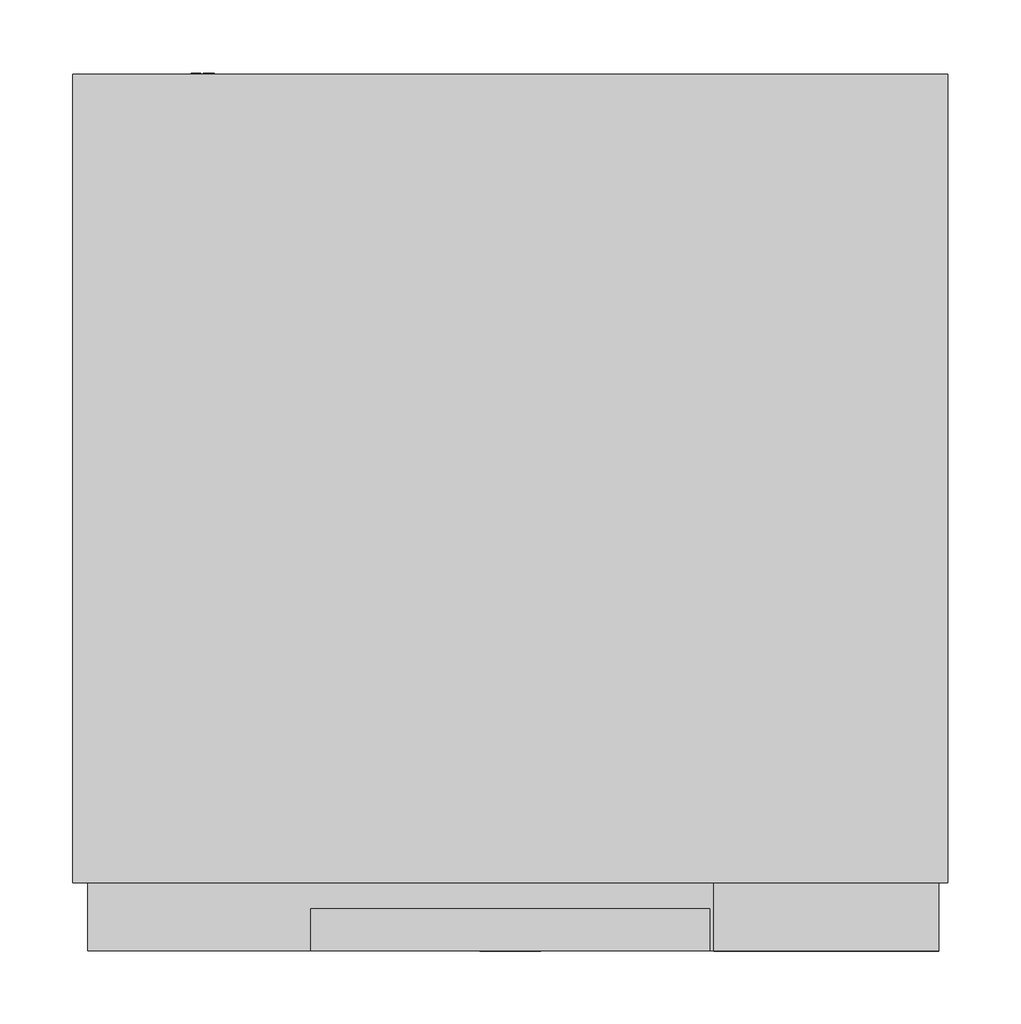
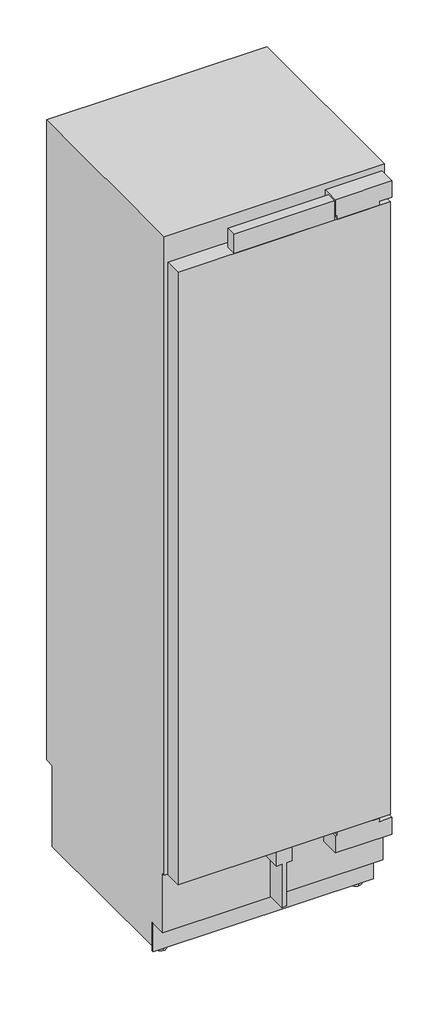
# Not in any storey: 1 proxy.
"""IFC4 building model written with IfcOpenShell, lengths in millimetres."""

import ifcopenshell
import ifcopenshell.guid

model = None  # the IFC model being written
_history = None  # IfcOwnerHistory: only IFC2X3 demands one
_inside = {}  # id of a spatial element -> (the spatial element, [elements in it])
_under = {}  # id of a project, library or spatial element -> (it, [spatial elements below it])
_declared = {}  # id of a project -> (the project, [libraries it declares])
_typed = {}  # id of a type object -> (the type object, [elements of that type])
_made_of = {}  # id of a material, layer set ... -> (it, [elements and type objects made of it])


def new_model(schema):
    """Start an empty IFC model of exactly this schema.

    Asked for "IFC4X3", IfcOpenShell would pick the latest addendum, in which some entities
    have other attributes; the version numbers below select the first issue.
    IFC2X3 requires an IfcOwnerHistory on every rooted entity: one is made here for all.
    """
    global model, _history
    if schema == "IFC4X3":
        model = ifcopenshell.file(schema_version=(4, 3, 0, 0))
    else:
        model = ifcopenshell.file(schema=schema)
    _inside.clear()
    _under.clear()
    _declared.clear()
    _typed.clear()
    _made_of.clear()
    _history = None
    if model.schema == "IFC2X3":
        org = make("IfcOrganization", Name="unknown")
        user = make(
            "IfcPersonAndOrganization",
            ThePerson=make("IfcPerson", FamilyName="unknown"),
            TheOrganization=org,
        )
        app = make(
            "IfcApplication",
            ApplicationDeveloper=org,
            Version="unknown",
            ApplicationFullName="unknown",
            ApplicationIdentifier="unknown",
        )
        _history = make(
            "IfcOwnerHistory",
            OwningUser=user,
            OwningApplication=app,
            ChangeAction="ADDED",
            CreationDate=0,
        )
    return model


def make(cls, **values):
    """One entity of the class cls with the attributes given. An attribute that is None is left unset."""
    return model.create_entity(
        cls, **{name: value for name, value in values.items() if value is not None}
    )


def rooted(cls, **values):
    """An entity with a GlobalId (a new one), such as an element, a storey or a relation."""
    return make(cls, GlobalId=ifcopenshell.guid.new(), OwnerHistory=_history, **values)


def si_unit(unit_type, name, prefix=None):
    """IfcSIUnit, for example si_unit("LENGTHUNIT", "METRE", prefix="MILLI")."""
    return make("IfcSIUnit", UnitType=unit_type, Prefix=prefix, Name=name)


def assignment(units):
    """IfcUnitAssignment: the units of a project."""
    return None if units is None else make("IfcUnitAssignment", Units=units)


def point(xyz):
    """IfcCartesianPoint."""
    return None if xyz is None else make("IfcCartesianPoint", Coordinates=xyz)


def direction(xyz):
    """IfcDirection."""
    return None if xyz is None else make("IfcDirection", DirectionRatios=xyz)


def frame(location, z_axis=None, x_axis=None):
    """IfcAxis2Placement3D, a coordinate frame: its origin and axes. An axis left out is left unset."""
    return make(
        "IfcAxis2Placement3D",
        Location=point(location),
        Axis=direction(z_axis),
        RefDirection=direction(x_axis),
    )


def frame_2d(location, x_axis=None):
    """IfcAxis2Placement2D, a coordinate frame in the plane: its origin and x axis."""
    return make(
        "IfcAxis2Placement2D", Location=point(location), RefDirection=direction(x_axis)
    )


def origin():
    """The frame at (0, 0, 0) with its axes left unset."""
    return frame((0.0, 0.0, 0.0))


def place(relative_to, where):
    """IfcLocalPlacement: puts the frame where relative to a parent placement (None: the world)."""
    return make(
        "IfcLocalPlacement", PlacementRelTo=relative_to, RelativePlacement=where
    )


def context(
    kind, dimensions, precision=None, world=None, true_north=None, identifier=None
):
    """IfcGeometricRepresentationContext, for example the 3D "Model" context."""
    return make(
        "IfcGeometricRepresentationContext",
        ContextIdentifier=identifier,
        ContextType=kind,
        CoordinateSpaceDimension=dimensions,
        Precision=precision,
        WorldCoordinateSystem=world,
        TrueNorth=true_north,
    )


def project(units=None, contexts=None):
    """IfcProject with its units and contexts."""
    return rooted(
        "IfcProject",
        Name="project",
        RepresentationContexts=contexts,
        UnitsInContext=assignment(units),
    )


def spatial(cls, under=None, at=None, **own):
    """A site, building, storey or space (cls), placed at a placement, below another one or the project."""
    s = rooted(cls, ObjectPlacement=at, **own)
    if under is not None:
        _under.setdefault(under.id(), (under, []))[1].append(s)
    return s


def polyline(points):
    """IfcPolyline through the points."""
    return make("IfcPolyline", Points=[point(p) for p in points])


def circle_curve(where, radius):
    """IfcCircle in the frame where."""
    return make("IfcCircle", Position=where, Radius=radius)


def trimmed(basis, trim1, trim2, sense, master):
    """IfcTrimmedCurve: the piece of a basis curve between two trims."""
    return make(
        "IfcTrimmedCurve",
        BasisCurve=basis,
        Trim1=trim1,
        Trim2=trim2,
        SenseAgreement=sense,
        MasterRepresentation=master,
    )


def segment(curve, same_sense, transition):
    """IfcCompositeCurveSegment."""
    return make(
        "IfcCompositeCurveSegment",
        Transition=transition,
        SameSense=same_sense,
        ParentCurve=curve,
    )


def composite_curve(segments, self_intersect=None):
    """IfcCompositeCurve: segments joined end to end."""
    return make("IfcCompositeCurve", Segments=segments, SelfIntersect=self_intersect)


def outline(outer, holes=None, kind="AREA"):
    """IfcArbitraryClosedProfileDef: a profile drawn as a closed curve; with holes, ...WithVoids."""
    if holes is None:
        return make("IfcArbitraryClosedProfileDef", ProfileType=kind, OuterCurve=outer)
    return make(
        "IfcArbitraryProfileDefWithVoids",
        ProfileType=kind,
        OuterCurve=outer,
        InnerCurves=holes,
    )


def extrude(swept, where, along, depth):
    """IfcExtrudedAreaSolid: the profile swept, set in the frame where, extruded along a direction by depth."""
    return make(
        "IfcExtrudedAreaSolid",
        SweptArea=swept,
        Position=where,
        ExtrudedDirection=direction(along),
        Depth=depth,
    )


def shape(context_of_items, identifier, shape_type, items):
    """IfcShapeRepresentation: the items that make up one representation, for example the "Body"."""
    return make(
        "IfcShapeRepresentation",
        ContextOfItems=context_of_items,
        RepresentationIdentifier=identifier,
        RepresentationType=shape_type,
        Items=items,
    )


def source(mapping_origin, context_of_items, identifier, shape_type, items):
    """IfcRepresentationMap: a shape defined once, which mapped items show again and again."""
    return make(
        "IfcRepresentationMap",
        MappingOrigin=mapping_origin,
        MappedRepresentation=shape(context_of_items, identifier, shape_type, items),
    )


def transform(
    local_origin,
    x_axis=None,
    y_axis=None,
    z_axis=None,
    scale=None,
    scale2=None,
    scale3=None,
    uniform=True,
):
    """IfcCartesianTransformationOperator3D, or its non-uniform kind. x_axis, y_axis, z_axis: its Axis1, 2, 3."""
    if uniform:
        return make(
            "IfcCartesianTransformationOperator3D",
            Axis1=direction(x_axis),
            Axis2=direction(y_axis),
            LocalOrigin=point(local_origin),
            Scale=scale,
            Axis3=direction(z_axis),
        )
    return make(
        "IfcCartesianTransformationOperator3DnonUniform",
        Axis1=direction(x_axis),
        Axis2=direction(y_axis),
        LocalOrigin=point(local_origin),
        Scale=scale,
        Axis3=direction(z_axis),
        Scale2=scale2,
        Scale3=scale3,
    )


def mapped(mapping_source, mapping_target):
    """IfcMappedItem: shows the shape of a source again, moved by a transform."""
    return make(
        "IfcMappedItem", MappingSource=mapping_source, MappingTarget=mapping_target
    )


def made_of(thing, what):
    """Note that an element or type object is made of a material, layer set ...; save() writes the relation."""
    if what is not None:
        _made_of.setdefault(what.id(), (what, []))[1].append(thing)
    return thing


def element(
    cls,
    number,
    at=None,
    inside=None,
    cuts=None,
    type_object=None,
    material=None,
    context=None,
    identifier="Body",
    shape_type=None,
    held_by="IfcProductDefinitionShape",
    body=None,
    shapes=None,
    **own,
):
    """One element of the class cls, such as IfcWall. Its Tag is "e" and its number.

    at: its placement. inside: the storey or other place that contains it. cuts: it is an
    opening in that element (IfcRelVoidsElement). A single representation is given by context,
    identifier, shape_type and body (its items); several are given by shapes. held_by: the class
    of the entity that holds the representations. save() writes the other relations.
    """
    e = rooted(cls, Tag="e%d" % number, ObjectPlacement=at, **own)
    if body is not None:
        shapes = [shape(context, identifier, shape_type, body)]
    if shapes is not None:
        e.Representation = make(held_by, Representations=shapes)
    if inside is not None:
        _inside.setdefault(inside.id(), (inside, []))[1].append(e)
    if cuts is not None:
        rooted(
            "IfcRelVoidsElement", RelatingBuildingElement=cuts, RelatedOpeningElement=e
        )
    if type_object is not None:
        _typed.setdefault(type_object.id(), (type_object, []))[1].append(e)
    return made_of(e, material)


def aggregate(whole, parts):
    """IfcRelAggregates: a whole, such as a stair, and the parts it consists of."""
    return rooted("IfcRelAggregates", RelatingObject=whole, RelatedObjects=parts)


def save(model, path):
    """Write the relations noted so far, then the file.

    IfcRelAggregates (storeys below a building ...), IfcRelContainedInSpatialStructure (elements
    in a storey), IfcRelDefinesByType, IfcRelAssociatesMaterial and IfcRelDeclares: one each for
    every whole, place, type object, material and project.
    """
    for whole, parts in _under.values():
        aggregate(whole, parts)
    for where, things in _inside.values():
        rooted(
            "IfcRelContainedInSpatialStructure",
            RelatedElements=things,
            RelatingStructure=where,
        )
    for kind, things in _typed.values():
        rooted("IfcRelDefinesByType", RelatedObjects=things, RelatingType=kind)
    for what, things in _made_of.values():
        rooted("IfcRelAssociatesMaterial", RelatedObjects=things, RelatingMaterial=what)
    for by, libraries in _declared.values():
        rooted("IfcRelDeclares", RelatingContext=by, RelatedDefinitions=libraries)
    model.write(path)


def plane_surface(at):
    """IfcPlane: the flat surface through the origin of the frame at, square to its z axis."""
    return make("IfcPlane", Position=at)


def cylinder_surface(at, radius):
    """IfcCylindricalSurface: all points at the distance radius from the z axis of the frame at."""
    return make("IfcCylindricalSurface", Position=at, Radius=radius)


def advanced_brep(points, edges, surfaces, faces):
    """IfcAdvancedBrep: a solid bounded by faces that lie on surfaces and meet in shared edges.

    An edge is (start, end): straight between two places in points (the first is 0);
    or (start, end, curve); or (start, end, curve, False) where it runs against its curve.
    A face is (place in surfaces, loops), or (place, loops, False) where it looks against
    its surface's normal. A loop lists edges by number (the first is 1), with a minus sign
    where the edge is run from its end to its start. The first loop is the outer one.
    """
    corners = [point(p) for p in points]
    vertices = [make("IfcVertexPoint", VertexGeometry=c) for c in corners]
    made = []
    for start, end, *more in edges:
        made.append(
            make(
                "IfcEdgeCurve",
                EdgeStart=vertices[start],
                EdgeEnd=vertices[end],
                EdgeGeometry=more[0] if more else make("IfcPolyline", Points=[corners[start], corners[end]]),
                SameSense=more[1] if len(more) > 1 else True,
            )
        )
    hull = []
    for where, loops, *sense in faces:
        bounds = []
        for j, loop in enumerate(loops):
            ring = [make("IfcOrientedEdge", EdgeElement=made[abs(k) - 1], Orientation=k > 0) for k in loop]
            bounds.append(
                make(
                    "IfcFaceOuterBound" if j == 0 else "IfcFaceBound",
                    Bound=make("IfcEdgeLoop", EdgeList=ring),
                    Orientation=True,
                )
            )
        hull.append(make("IfcAdvancedFace", Bounds=bounds, FaceSurface=surfaces[where], SameSense=sense[0] if sense else True))
    return make("IfcAdvancedBrep", Outer=make("IfcClosedShell", CfsFaces=hull))


def specialty_equipment_70aed38f(model_context):
    return source(origin(), model_context, "Body", "SolidModel", [
        extrude(outline(polyline([(-291.0, 47.0), (291.0, 47.0), (291.0, 0.0), (-291.0, 0.0), (-291.0, 47.0)])), frame((0.0, 0.0, 265.0), z_axis=(0.0, 0.0, 1.0), x_axis=(1.0, 0.0, 0.0)), (0.0, 0.0, 1.0), 1771.0),
        extrude(outline(polyline([(-137.5, 29.0), (137.5, 29.0), (137.5, 0.0), (-137.5, 0.0), (-137.5, 29.0)])), frame((0.0, 0.0, 2036.0), z_axis=(0.0, 0.0, 1.0), x_axis=(1.0, 0.0, 0.0)), (0.0, 0.0, 1.0), 56.0),
        extrude(outline(polyline([(265.0, 21.0), (265.0, 0.0), (265.0, -21.0), (224.0, -21.0), (224.0, -6.5), (99.0, -6.5), (99.0, 0.0), (99.0, 6.5), (224.0, 6.5), (224.0, 21.0), (265.0, 21.0)])), frame((0.0, 0.0, 0.0), z_axis=(0.0, 1.0, 0.0), x_axis=(0.0, 0.0, 1.0)), (0.0, 0.0, 1.0), 54.0),
        extrude(outline(polyline([(87.0, 1998.0), (544.0, 1998.0), (544.0, 1791.0), (475.0, 1791.0), (447.0, 1868.0), (201.3701279, 1868.0), (156.3150905, 1940.0880598), (87.0, 1949.0), (87.0, 1998.0)])), frame((-255.5, 0.0, 0.0), z_axis=(1.0, 0.0, 0.0), x_axis=(0.0, 1.0, 0.0)), (0.0, 0.0, 1.0), 511.0),
        extrude(outline(polyline([(196.9886114, 1875.0), (195.809433, 1875.0), (158.6921935, 1934.4), (159.8713719, 1934.4), (196.9886114, 1875.0)])), frame((-69.0, 0.0, 0.0), z_axis=(1.0, 0.0, 0.0), x_axis=(0.0, 1.0, 0.0)), (0.0, 0.0, 1.0), 138.0),
        extrude(outline(polyline([(2095.0, 295.0), (2095.0, 140.0), (2047.0, 140.0), (2047.0, 146.0), (2036.5, 146.0), (2036.5, 261.0), (2047.0, 261.0), (2047.0, 295.0), (2095.0, 295.0)])), frame((0.0, 0.0, 0.0), z_axis=(0.0, 1.0, 0.0), x_axis=(0.0, 0.0, 1.0)), (0.0, 0.0, 1.0), 47.0),
        extrude(outline(polyline([(254.0, 140.0), (206.0, 140.0), (206.0, 295.0), (254.0, 295.0), (254.0, 261.0), (264.0, 261.0), (264.0, 146.0), (254.0, 146.0), (254.0, 140.0)])), frame((0.0, 0.0, 0.0), z_axis=(0.0, 1.0, 0.0), x_axis=(0.0, 0.0, 1.0)), (0.0, 0.0, 1.0), 54.0),
        extrude(outline(polyline([(99.0373308, -211.2645771), (97.7615342, -211.2645771), (97.7615342, -205.3195541), (94.7968516, -205.3195541), (94.7968516, -210.969579), (93.5246295, -210.969579), (93.5246295, -205.3415693), (90.2570046, -205.3415693), (90.2570046, -211.4619689), (88.9546219, -211.4619689), (88.9546219, -204.0443524), (99.0373308, -204.0443524), (99.0373308, -211.2645771)])), frame((0.0, 604.0, 0.0), z_axis=(0.0, 1.0, 0.0), x_axis=(0.0, 0.0, 1.0)), (0.0, 0.0, 1.0), 1.0),
        extrude(outline(polyline([(99.0458, -214.5619704), (90.2663944, -214.5619704), (90.2663944, -219.6145879), (89.0134802, -219.6145879), (89.0134802, -213.3423809), (99.0458, -213.3423809), (99.0458, -214.5619704)])), frame((0.0, 604.0, 0.0), z_axis=(0.0, 1.0, 0.0), x_axis=(0.0, 0.0, 1.0)), (0.0, 0.0, 1.0), 1.0),
        extrude(outline(composite_curve([segment(trimmed(circle_curve(frame_2d((94.0, -211.5)), 7.5), [point((86.5, -211.5))], [point((101.5, -211.5))], False, "CARTESIAN"), True, "CONTINUOUS"), segment(trimmed(circle_curve(frame_2d((94.0, -211.5)), 7.5), [point((101.5, -211.5))], [point((86.5, -211.5))], False, "CARTESIAN"), True, "CONTINUOUS")], self_intersect=False)), frame((0.0, 577.0, 0.0), z_axis=(0.0, 1.0, 0.0), x_axis=(0.0, 0.0, 1.0)), (0.0, 0.0, 1.0), 27.0),
        extrude(outline(polyline([(-301.5, 104.0), (301.5, 104.0), (301.5, 99.0), (-301.5, 99.0), (-301.5, 104.0)])), frame((0.0, 0.0, 14.0), z_axis=(0.0, 0.0, 1.0), x_axis=(1.0, 0.0, 0.0)), (0.0, 0.0, 1.0), 83.0),
        advanced_brep(
        [(-267.5, 139.0, 0.0), (-267.5, 109.0, 0.0), (-267.5, 139.0, 7.0), (-267.5, 109.0, 7.0), (-267.5, 128.7, 7.0), (-267.5, 119.3, 7.0), (-267.5, 128.7, 28.0), (-267.5, 119.3, 28.0)],
        [
            (0, 1, circle_curve(frame((-267.5, 124.0, 0.0), z_axis=(0.0, 0.0, -1.0), x_axis=(1.0, 0.0, 0.0)), 15.0)),
            (1, 0, circle_curve(frame((-267.5, 124.0, 0.0), z_axis=(0.0, 0.0, -1.0), x_axis=(1.0, 0.0, 0.0)), 15.0)),
            (2, 3, circle_curve(frame((-267.5, 124.0, 7.0), z_axis=(0.0, 0.0, 1.0), x_axis=(1.0, 0.0, 0.0)), 15.0)),
            (3, 2, circle_curve(frame((-267.5, 124.0, 7.0), z_axis=(0.0, 0.0, 1.0), x_axis=(1.0, 0.0, 0.0)), 15.0)),
            (4, 5, circle_curve(frame((-267.5, 124.0, 7.0), z_axis=(0.0, 0.0, -1.0), x_axis=(0.0, -1.0, 0.0)), 4.7)),
            (5, 4, circle_curve(frame((-267.5, 124.0, 7.0), z_axis=(0.0, 0.0, -1.0), x_axis=(0.0, -1.0, 0.0)), 4.7)),
            (0, 2),
            (3, 1),
            (6, 7, circle_curve(frame((-267.5, 124.0, 28.0), z_axis=(0.0, 0.0, 1.0), x_axis=(0.0, -1.0, 0.0)), 4.7)),
            (7, 6, circle_curve(frame((-267.5, 124.0, 28.0), z_axis=(0.0, 0.0, 1.0), x_axis=(0.0, -1.0, 0.0)), 4.7)),
            (7, 5),
            (4, 6),
        ],
        [
            plane_surface(frame((-252.5, 124.0, 0.0), z_axis=(0.0, 0.0, -1.0), x_axis=(0.0, -1.0, 0.0))),
            plane_surface(frame((-252.5, 124.0, 7.0), z_axis=(0.0, 0.0, 1.0), x_axis=(0.0, 1.0, 0.0))),
            cylinder_surface(frame((-267.5, 124.0, 7.0), z_axis=(0.0, 0.0, -1.0), x_axis=(1.0, 0.0, 0.0)), 15.0),
            plane_surface(frame((-267.5, 119.3, 28.0), z_axis=(0.0, 0.0, 1.0), x_axis=(1.0, 0.0, 0.0))),
            cylinder_surface(frame((-267.5, 124.0, 28.0), z_axis=(0.0, 0.0, -1.0), x_axis=(0.0, -1.0, 0.0)), 4.7),
        ],
        [
            (0, [[1, 2]]),
            (1, [[3, 4], [5, 6]]),
            (2, [[-1, 7, -4, 8]]),
            (2, [[-2, -8, -3, -7]]),
            (3, [[9, 10]]),
            (4, [[-10, 11, -5, 12]]),
            (4, [[-9, -12, -6, -11]]),
        ],
    ),
        advanced_brep(
        [(267.5, 139.0, 0.0), (267.5, 109.0, 0.0), (267.5, 139.0, 7.0), (267.5, 109.0, 7.0), (267.5, 128.7, 7.0), (267.5, 119.3, 7.0), (267.5, 128.7, 28.0), (267.5, 119.3, 28.0)],
        [
            (0, 1, circle_curve(frame((267.5, 124.0, 0.0), z_axis=(0.0, 0.0, -1.0), x_axis=(1.0, 0.0, 0.0)), 15.0)),
            (1, 0, circle_curve(frame((267.5, 124.0, 0.0), z_axis=(0.0, 0.0, -1.0), x_axis=(1.0, 0.0, 0.0)), 15.0)),
            (2, 3, circle_curve(frame((267.5, 124.0, 7.0), z_axis=(0.0, 0.0, 1.0), x_axis=(1.0, 0.0, 0.0)), 15.0)),
            (3, 2, circle_curve(frame((267.5, 124.0, 7.0), z_axis=(0.0, 0.0, 1.0), x_axis=(1.0, 0.0, 0.0)), 15.0)),
            (4, 5, circle_curve(frame((267.5, 124.0, 7.0), z_axis=(0.0, 0.0, -1.0), x_axis=(0.0, -1.0, 0.0)), 4.7)),
            (5, 4, circle_curve(frame((267.5, 124.0, 7.0), z_axis=(0.0, 0.0, -1.0), x_axis=(0.0, -1.0, 0.0)), 4.7)),
            (0, 2),
            (3, 1),
            (6, 7, circle_curve(frame((267.5, 124.0, 28.0), z_axis=(0.0, 0.0, 1.0), x_axis=(0.0, -1.0, 0.0)), 4.7)),
            (7, 6, circle_curve(frame((267.5, 124.0, 28.0), z_axis=(0.0, 0.0, 1.0), x_axis=(0.0, -1.0, 0.0)), 4.7)),
            (7, 5),
            (4, 6),
        ],
        [
            plane_surface(frame((-252.5, 124.0, 0.0), z_axis=(0.0, 0.0, -1.0), x_axis=(0.0, -1.0, 0.0))),
            plane_surface(frame((-252.5, 124.0, 7.0), z_axis=(0.0, 0.0, 1.0), x_axis=(0.0, 1.0, 0.0))),
            cylinder_surface(frame((267.5, 124.0, 7.0), z_axis=(0.0, 0.0, -1.0), x_axis=(1.0, 0.0, 0.0)), 15.0),
            plane_surface(frame((-267.5, 119.3, 28.0), z_axis=(0.0, 0.0, 1.0), x_axis=(1.0, 0.0, 0.0))),
            cylinder_surface(frame((267.5, 124.0, 28.0), z_axis=(0.0, 0.0, -1.0), x_axis=(0.0, -1.0, 0.0)), 4.7),
        ],
        [
            (0, [[1, 2]]),
            (1, [[3, 4], [5, 6]]),
            (2, [[-1, 7, -4, 8]]),
            (2, [[-2, -8, -3, -7]]),
            (3, [[9, 10]]),
            (4, [[-10, 11, -5, 12]]),
            (4, [[-9, -12, -6, -11]]),
        ],
    ),
        advanced_brep(
        [(301.5, 47.0, 2114.0), (301.5, 47.0, 267.0), (301.5, 54.0, 267.0), (301.5, 54.0, 97.0), (301.5, 104.0, 97.0), (301.5, 104.0, 28.0), (301.5, 577.0, 28.0), (301.5, 577.0, 263.0), (301.5, 604.0, 263.0), (301.5, 604.0, 2114.0), (-301.5, 47.0, 2114.0), (-301.5, 604.0, 2114.0), (-301.5, 604.0, 263.0), (-301.5, 577.0, 263.0), (-301.5, 577.0, 28.0), (-301.5, 104.0, 28.0), (-301.5, 104.0, 97.0), (-301.5, 54.0, 97.0), (-301.5, 54.0, 267.0), (-301.5, 47.0, 267.0), (241.5, 577.0, 28.0), (241.5, 577.0, 14.0), (-241.5, 577.0, 14.0), (-241.5, 577.0, 28.0), (241.5, 104.0, 14.0), (-241.5, 104.0, 14.0), (-241.5, 104.0, 28.0), (241.5, 104.0, 28.0), (255.5, 47.0, 1998.0), (255.5, 47.0, 343.0), (-255.5, 47.0, 343.0), (-255.5, 47.0, 1998.0), (255.5, 544.0, 1998.0), (-255.5, 544.0, 1998.0), (-255.5, 544.0, 343.0), (255.5, 544.0, 343.0), (-260.0, 202.8193473, 28.0), (-279.0, 202.8193473, 28.0), (-279.0, 153.1806527, 28.0), (-260.0, 153.1806527, 28.0), (-279.5, 525.8193473, 28.0), (-279.5, 476.1806527, 28.0), (-263.5, 476.1806527, 28.0), (-263.5, 525.8193473, 28.0), (279.0, 153.1806527, 28.0), (279.0, 202.8193473, 28.0), (260.0, 202.8193473, 28.0), (260.0, 153.1806527, 28.0), (263.5, 525.8193473, 28.0), (263.5, 476.1806527, 28.0), (279.5, 476.1806527, 28.0), (279.5, 525.8193473, 28.0), (-260.0, 203.0, 25.0), (-260.0, 153.0, 25.0), (-279.0, 153.0, 25.0), (-279.0, 203.0, 25.0), (-260.0, 178.0, 25.0), (-279.0, 178.0, 25.0), (279.0, 178.0, 25.0), (279.0, 153.0, 25.0), (279.0, 203.0, 25.0), (260.0, 203.0, 25.0), (260.0, 153.0, 25.0), (260.0, 178.0, 25.0), (-279.5, 526.0, 25.0), (-279.5, 476.0, 25.0), (-279.5, 501.0, 25.0), (-263.5, 526.0, 25.0), (-263.5, 476.0, 25.0), (-263.5, 501.0, 25.0), (263.5, 526.0, 25.0), (263.5, 476.0, 25.0), (263.5, 501.0, 25.0), (279.5, 526.0, 25.0), (279.5, 476.0, 25.0), (279.5, 501.0, 25.0)],
        [
            (0, 1),
            (1, 2),
            (2, 3),
            (3, 4),
            (4, 5),
            (5, 6),
            (6, 7),
            (7, 8),
            (8, 9),
            (9, 0),
            (10, 11),
            (11, 12),
            (12, 13),
            (13, 14),
            (14, 15),
            (15, 16),
            (16, 17),
            (17, 18),
            (18, 19),
            (19, 10),
            (9, 11),
            (10, 0),
            (8, 12),
            (7, 13),
            (6, 20),
            (20, 21),
            (21, 22),
            (22, 23),
            (23, 14),
            (21, 24),
            (24, 25),
            (25, 22),
            (4, 16),
            (15, 26),
            (26, 25),
            (24, 27),
            (27, 5),
            (3, 17),
            (2, 18),
            (1, 19),
            (28, 29),
            (29, 30),
            (30, 31),
            (31, 28),
            (32, 33),
            (33, 34),
            (34, 35),
            (35, 32),
            (35, 29),
            (28, 32),
            (34, 30),
            (33, 31),
            (23, 26),
            (36, 37),
            (37, 38),
            (38, 39),
            (39, 36),
            (40, 41),
            (41, 42),
            (42, 43),
            (43, 40),
            (27, 20),
            (44, 45),
            (45, 46),
            (46, 47),
            (47, 44),
            (48, 49),
            (49, 50),
            (50, 51),
            (51, 48),
            (52, 53, circle_curve(frame((-260.0, 178.0, 25.0), z_axis=(-1.0, 0.0, 0.0), x_axis=(0.0, -1.0, 0.0)), 25.0)),
            (53, 54),
            (54, 55, circle_curve(frame((-279.0, 178.0, 25.0), z_axis=(1.0, 0.0, 0.0), x_axis=(0.0, -1.0, 0.0)), 25.0)),
            (55, 52),
            (53, 39, circle_curve(frame((-260.0, 178.0, 25.0), z_axis=(-1.0, 0.0, 0.0), x_axis=(0.0, -1.0, 0.0)), 25.0)),
            (38, 54, circle_curve(frame((-279.0, 178.0, 25.0), z_axis=(1.0, 0.0, 0.0), x_axis=(0.0, -1.0, 0.0)), 25.0)),
            (55, 37, circle_curve(frame((-279.0, 178.0, 25.0), z_axis=(1.0, 0.0, 0.0), x_axis=(0.0, -1.0, 0.0)), 25.0)),
            (36, 52, circle_curve(frame((-260.0, 178.0, 25.0), z_axis=(-1.0, 0.0, 0.0), x_axis=(0.0, -1.0, 0.0)), 25.0)),
            (52, 56),
            (56, 53),
            (54, 57),
            (57, 55),
            (58, 59),
            (59, 60, circle_curve(frame((279.0, 178.0, 25.0), z_axis=(1.0, 0.0, 0.0), x_axis=(0.0, -1.0, 0.0)), 25.0)),
            (60, 58),
            (60, 45, circle_curve(frame((279.0, 178.0, 25.0), z_axis=(1.0, 0.0, 0.0), x_axis=(0.0, -1.0, 0.0)), 25.0)),
            (44, 59, circle_curve(frame((279.0, 178.0, 25.0), z_axis=(1.0, 0.0, 0.0), x_axis=(0.0, -1.0, 0.0)), 25.0)),
            (61, 62, circle_curve(frame((260.0, 178.0, 25.0), z_axis=(-1.0, 0.0, 0.0), x_axis=(0.0, -1.0, 0.0)), 25.0)),
            (62, 63),
            (63, 61),
            (62, 47, circle_curve(frame((260.0, 178.0, 25.0), z_axis=(-1.0, 0.0, 0.0), x_axis=(0.0, -1.0, 0.0)), 25.0)),
            (46, 61, circle_curve(frame((260.0, 178.0, 25.0), z_axis=(-1.0, 0.0, 0.0), x_axis=(0.0, -1.0, 0.0)), 25.0)),
            (64, 65, circle_curve(frame((-279.5, 501.0, 25.0), z_axis=(-1.0, 0.0, 0.0), x_axis=(0.0, -1.0, 0.0)), 25.0)),
            (65, 66),
            (66, 64),
            (65, 41, circle_curve(frame((-279.5, 501.0, 25.0), z_axis=(-1.0, 0.0, 0.0), x_axis=(0.0, -1.0, 0.0)), 25.0)),
            (40, 64, circle_curve(frame((-279.5, 501.0, 25.0), z_axis=(-1.0, 0.0, 0.0), x_axis=(0.0, -1.0, 0.0)), 25.0)),
            (64, 67),
            (67, 68, circle_curve(frame((-263.5, 501.0, 25.0), z_axis=(-1.0, 0.0, 0.0), x_axis=(0.0, -1.0, 0.0)), 25.0)),
            (68, 65),
            (43, 67, circle_curve(frame((-263.5, 501.0, 25.0), z_axis=(-1.0, 0.0, 0.0), x_axis=(0.0, -1.0, 0.0)), 25.0)),
            (68, 42, circle_curve(frame((-263.5, 501.0, 25.0), z_axis=(-1.0, 0.0, 0.0), x_axis=(0.0, -1.0, 0.0)), 25.0)),
            (67, 69),
            (69, 68),
            (70, 71, circle_curve(frame((263.5, 501.0, 25.0), z_axis=(-1.0, 0.0, 0.0), x_axis=(0.0, -1.0, 0.0)), 25.0)),
            (71, 72),
            (72, 70),
            (71, 49, circle_curve(frame((263.5, 501.0, 25.0), z_axis=(-1.0, 0.0, 0.0), x_axis=(0.0, -1.0, 0.0)), 25.0)),
            (48, 70, circle_curve(frame((263.5, 501.0, 25.0), z_axis=(-1.0, 0.0, 0.0), x_axis=(0.0, -1.0, 0.0)), 25.0)),
            (70, 73),
            (73, 74, circle_curve(frame((279.5, 501.0, 25.0), z_axis=(-1.0, 0.0, 0.0), x_axis=(0.0, -1.0, 0.0)), 25.0)),
            (74, 71),
            (51, 73, circle_curve(frame((279.5, 501.0, 25.0), z_axis=(-1.0, 0.0, 0.0), x_axis=(0.0, -1.0, 0.0)), 25.0)),
            (74, 50, circle_curve(frame((279.5, 501.0, 25.0), z_axis=(-1.0, 0.0, 0.0), x_axis=(0.0, -1.0, 0.0)), 25.0)),
            (73, 75),
            (75, 74),
            (59, 62),
            (61, 60),
        ],
        [
            plane_surface(frame((301.5, 604.0, 2114.0), z_axis=(1.0, 0.0, 0.0), x_axis=(0.0, -1.0, 0.0))),
            plane_surface(frame((-301.5, 604.0, 2114.0), z_axis=(-1.0, 0.0, 0.0), x_axis=(0.0, 1.0, 0.0))),
            plane_surface(frame((-301.5, 47.0, 2114.0), z_axis=(0.0, 0.0, 1.0), x_axis=(1.0, 0.0, 0.0))),
            plane_surface(frame((-301.5, 604.0, 2114.0), z_axis=(0.0, 1.0, 0.0), x_axis=(1.0, 0.0, 0.0))),
            plane_surface(frame((-301.5, 604.0, 263.0), z_axis=(0.0, 0.0, -1.0), x_axis=(1.0, 0.0, 0.0))),
            plane_surface(frame((-301.5, 577.0, 263.0), z_axis=(0.0, 1.0, 0.0), x_axis=(1.0, 0.0, 0.0))),
            plane_surface(frame((-301.5, 577.0, 14.0), z_axis=(0.0, 0.0, -1.0), x_axis=(1.0, 0.0, 0.0))),
            plane_surface(frame((-301.5, 104.0, 14.0), z_axis=(0.0, -1.0, 0.0), x_axis=(1.0, 0.0, 0.0))),
            plane_surface(frame((-301.5, 104.0, 97.0), z_axis=(0.0, 0.0, -1.0), x_axis=(1.0, 0.0, 0.0))),
            plane_surface(frame((-301.5, 54.0, 97.0), z_axis=(0.0, -1.0, 0.0), x_axis=(1.0, 0.0, 0.0))),
            plane_surface(frame((-301.5, 54.0, 267.0), z_axis=(0.0, 0.0, -1.0), x_axis=(1.0, 0.0, 0.0))),
            plane_surface(frame((-301.5, 47.0, 267.0), z_axis=(0.0, -1.0, 0.0), x_axis=(1.0, 0.0, 0.0))),
            plane_surface(frame((255.5, 544.0, 1998.0), z_axis=(0.0, -1.0, 0.0), x_axis=(0.0, 0.0, -1.0))),
            plane_surface(frame((255.5, 544.0, 1998.0), z_axis=(-1.0, 0.0, 0.0), x_axis=(0.0, -1.0, 0.0))),
            plane_surface(frame((255.5, 544.0, 343.0), z_axis=(0.0, 0.0, 1.0), x_axis=(0.0, -1.0, 0.0))),
            plane_surface(frame((-255.5, 544.0, 343.0), z_axis=(1.0, 0.0, 0.0), x_axis=(0.0, -1.0, 0.0))),
            plane_surface(frame((-255.5, 544.0, 1998.0), z_axis=(0.0, 0.0, -1.0), x_axis=(0.0, -1.0, 0.0))),
            plane_surface(frame((-301.5, 604.0, 28.0), z_axis=(0.0, 0.0, -1.0), x_axis=(-1.0, 0.0, 0.0))),
            plane_surface(frame((-241.5, 104.0, 28.0), z_axis=(-1.0, 0.0, 0.0), x_axis=(0.0, 0.0, -1.0))),
            plane_surface(frame((241.5, 604.0, 28.0), z_axis=(1.0, 0.0, 0.0), x_axis=(0.0, 0.0, -1.0))),
            cylinder_surface(frame((-394.1988927, 178.0, 25.0), z_axis=(1.0, 0.0, 0.0), x_axis=(0.0, -1.0, 0.0)), 25.0),
            plane_surface(frame((-260.0, 178.0, 25.0), z_axis=(1.0, 0.0, 0.0), x_axis=(0.0, -1.0, 0.0))),
            plane_surface(frame((-279.0, 178.0, 25.0), z_axis=(-1.0, 0.0, 0.0), x_axis=(0.0, -1.0, 0.0))),
            plane_surface(frame((279.0, 178.0, 25.0), z_axis=(1.0, 0.0, 0.0), x_axis=(0.0, -1.0, 0.0))),
            plane_surface(frame((260.0, 178.0, 25.0), z_axis=(-1.0, 0.0, 0.0), x_axis=(0.0, -1.0, 0.0))),
            plane_surface(frame((-279.5, 501.0, 25.0), z_axis=(-1.0, 0.0, 0.0), x_axis=(0.0, -1.0, 0.0))),
            cylinder_surface(frame((-394.1988927, 501.0, 25.0), z_axis=(1.0, 0.0, 0.0), x_axis=(0.0, -1.0, 0.0)), 25.0),
            plane_surface(frame((-263.5, 501.0, 25.0), z_axis=(1.0, 0.0, 0.0), x_axis=(0.0, -1.0, 0.0))),
            plane_surface(frame((263.5, 501.0, 25.0), z_axis=(-1.0, 0.0, 0.0), x_axis=(0.0, -1.0, 0.0))),
            plane_surface(frame((279.5, 501.0, 25.0), z_axis=(1.0, 0.0, 0.0), x_axis=(0.0, -1.0, 0.0))),
        ],
        [
            (0, [[1, 2, 3, 4, 5, 6, 7, 8, 9, 10]]),
            (1, [[11, 12, 13, 14, 15, 16, 17, 18, 19, 20]]),
            (2, [[-10, 21, -11, 22]]),
            (3, [[-9, 23, -12, -21]]),
            (4, [[-8, 24, -13, -23]]),
            (5, [[-24, -7, 25, 26, 27, 28, 29, -14]]),
            (6, [[-27, 30, 31, 32]]),
            (7, [[33, -16, 34, 35, -31, 36, 37, -5]]),
            (8, [[-4, 38, -17, -33]]),
            (9, [[-3, 39, -18, -38]]),
            (10, [[-2, 40, -19, -39]]),
            (11, [[-1, -22, -20, -40], [41, 42, 43, 44]]),
            (12, [[45, 46, 47, 48]]),
            (13, [[-48, 49, -41, 50]]),
            (14, [[-47, 51, -42, -49]]),
            (15, [[-46, 52, -43, -51]]),
            (16, [[-45, -50, -44, -52]]),
            (17, [[53, -34, -15, -29], [54, 55, 56, 57], [58, 59, 60, 61]]),
            (17, [[62, -25, -6, -37], [63, 64, 65, 66], [67, 68, 69, 70]]),
            (18, [[-53, -28, -32, -35]]),
            (19, [[-62, -36, -30, -26]]),
            (20, [[71, 72, 73, 74]]),
            (20, [[-72, 75, -56, 76]]),
            (20, [[-74, 77, -54, 78]]),
            (21, [[-71, 79, 80]]),
            (21, [[-80, -79, -78, -57, -75]]),
            (22, [[-73, 81, 82]]),
            (22, [[-81, -76, -55, -77, -82]]),
            (23, [[83, 84, 85]]),
            (23, [[-83, -85, 86, -63, 87]]),
            (24, [[88, 89, 90]]),
            (24, [[-89, 91, -65, 92, -90]]),
            (25, [[93, 94, 95]]),
            (25, [[-94, 96, -58, 97, -95]]),
            (26, [[-93, 98, 99, 100]]),
            (26, [[-98, -97, -61, 101]]),
            (26, [[-100, 102, -59, -96]]),
            (27, [[-99, 103, 104]]),
            (27, [[-104, -103, -101, -60, -102]]),
            (28, [[105, 106, 107]]),
            (28, [[-106, 108, -67, 109, -107]]),
            (26, [[-105, 110, 111, 112]]),
            (26, [[-110, -109, -70, 113]]),
            (26, [[-112, 114, -68, -108]]),
            (29, [[-111, 115, 116]]),
            (29, [[-116, -115, -113, -69, -114]]),
            (20, [[-84, 117, -88, 118]]),
            (20, [[-117, -87, -66, -91]]),
            (20, [[-118, -92, -64, -86]]),
        ],
    ),
    ])


model = new_model("IFC4")

# Units and contexts
model_context = context("Model", 3, world=origin())
ifc_project = project(units=[si_unit("LENGTHUNIT", "METRE", prefix="MILLI")], contexts=[model_context])

# Site, building
site = spatial("IfcSite", under=ifc_project)
building = spatial("IfcBuilding", under=site)

# Proxy
placement = place(None, origin())
specialty_equipment_shape = specialty_equipment_70aed38f(model_context)
element("IfcBuildingElementProxy", 1, Name="11501360_USA_K2602Vi : 36260201_USA_11501360_K2602Vi", ObjectType="11501360_USA_K2602Vi : 36260201_USA_11501360_K2602Vi", at=placement, inside=building, context=model_context, shape_type="MappedRepresentation", body=[
    mapped(specialty_equipment_shape, transform((0.0, 0.0, 0.0), x_axis=(1.0, 0.0, 0.0), y_axis=(0.0, 1.0, 0.0), z_axis=(0.0, 0.0, 1.0))),
])

save(model, "model.ifc")
